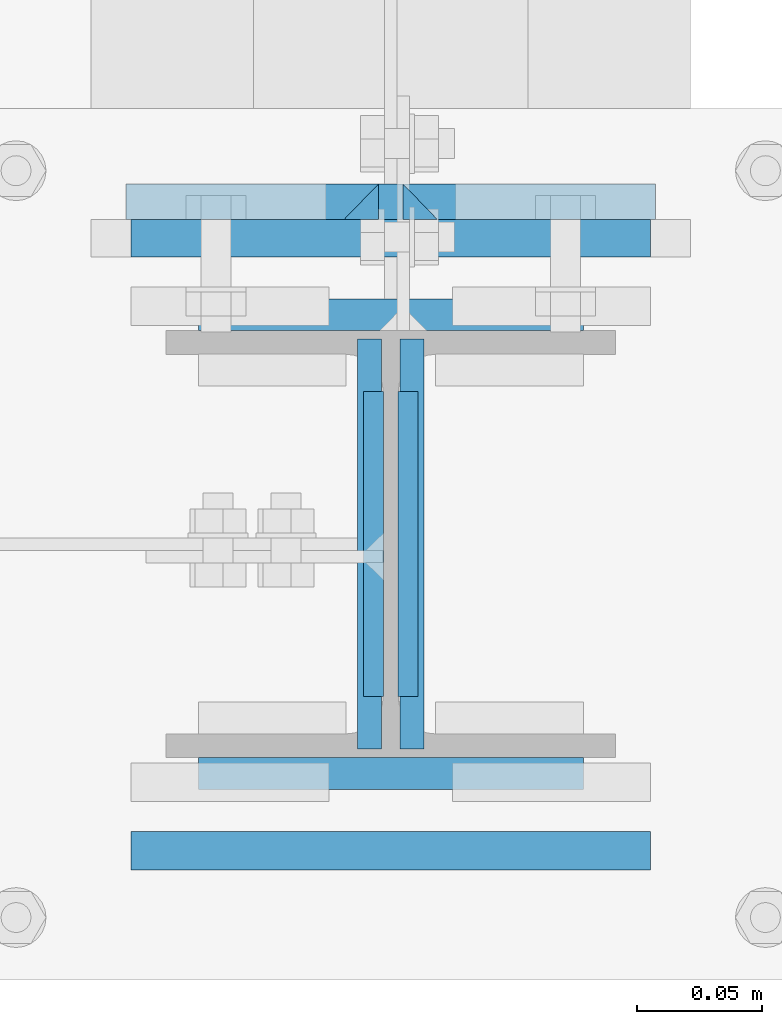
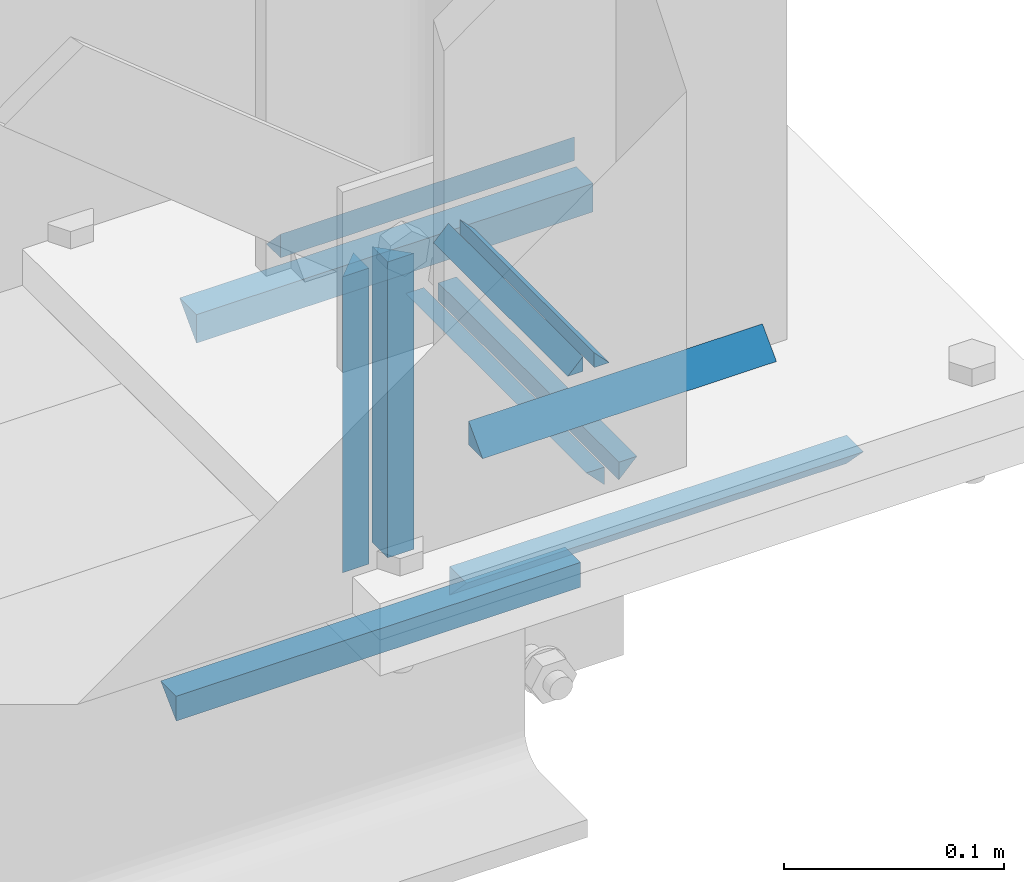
# One storey, part 22 of 66: 17 fasteners.
"""IFC4 building model written with IfcOpenShell, lengths in metres."""

from ifc_helpers import new_model, si_unit, frame, origin_with_axes, place, context, project, spatial, polyline, outline, extrude, type_object, element, save


model = new_model("IFC4")

# Units and contexts
model_context = context("Model", 3, precision=1e-05, world=origin_with_axes())
ifc_project = project(units=[si_unit("LENGTHUNIT", "METRE"), si_unit("AREAUNIT", "SQUARE_METRE"), si_unit("VOLUMEUNIT", "CUBIC_METRE"), si_unit("MASSUNIT", "GRAM", prefix="KILO"), si_unit("TIMEUNIT", "SECOND"), si_unit("PLANEANGLEUNIT", "RADIAN"), si_unit("SOLIDANGLEUNIT", "STERADIAN"), si_unit("THERMODYNAMICTEMPERATUREUNIT", "DEGREE_CELSIUS")], contexts=[model_context])

# Site, building, storey
placement_1 = place(None, origin_with_axes())
site = spatial("IfcSite", under=ifc_project, at=placement_1, Name="Italia", CompositionType="ELEMENT")
building = spatial("IfcBuilding", under=site, at=placement_1, Name="Uffici", CompositionType="ELEMENT")
storey_placement = place(None, frame((0.0, 0.0, 3.299999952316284), z_axis=(0.0, 0.0, 1.0), x_axis=(1.0, 0.0, 0.0)))
storey = spatial("IfcBuildingStorey", under=building, at=storey_placement, Name="Storey 1", CompositionType="ELEMENT", Elevation=3.299999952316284)

# Fasteners
fastener_type_1 = type_object("IfcFastenerType", Name="Collegamenti 0101_0201 0102_0202 0103_0203 0104_0204 0105_0205", PredefinedType="WELD")
placement_2 = place(placement_1, origin_with_axes())
fastener_1_placement = place(placement_2, origin_with_axes())
element("IfcFastener", 1, at=fastener_1_placement, inside=storey, type_object=fastener_type_1, Name="Collegamenti 0101_0201 0102_0202 0103_0203 0104_0204 0105_0205", context=model_context, shape_type="SweptSolid", body=[
    extrude(outline(polyline([(0.0, 0.0), (0.0127782, 0.0131733), (0.0127782, 0.0), (0.0, 0.0)])), frame((13.893, -0.0982282, 3.31995), z_axis=(1.0, 0.0, 0.0), x_axis=(0.0, 1.0, 0.0)), (0.0, 0.0, 1.0), 0.1541),
])
fastener_type_2 = type_object("IfcFastenerType", Name="Collegamenti 0101_0201 0102_0202 0103_0203 0104_0204 0105_0205", PredefinedType="WELD")
fastener_2_placement = place(placement_2, origin_with_axes())
element("IfcFastener", 2, at=fastener_2_placement, inside=storey, type_object=fastener_type_2, Name="Collegamenti 0101_0201 0102_0202 0103_0203 0104_0204 0105_0205", context=model_context, shape_type="SweptSolid", body=[
    extrude(outline(polyline([(0.0, 0.0), (0.00792885, 0.00817347), (0.00792885, 0.0), (0.0, 0.0)])), frame((13.9809, -0.06105, 3.31995), z_axis=(0.0, 1.0, 0.0), x_axis=(-1.0, 0.0, 0.0)), (0.0, 0.0, 1.0), 0.1221),
])
fastener_type_3 = type_object("IfcFastenerType", Name="Collegamenti 0101_0201 0102_0202 0103_0203 0104_0204 0105_0205", PredefinedType="WELD")
fastener_3_placement = place(placement_2, origin_with_axes())
element("IfcFastener", 3, at=fastener_3_placement, inside=storey, type_object=fastener_type_3, Name="Collegamenti 0101_0201 0102_0202 0103_0203 0104_0204 0105_0205", context=model_context, shape_type="SweptSolid", body=[
    extrude(outline(polyline([(0.0, 0.0), (0.00792885, 0.00817347), (0.00792885, 0.0), (0.0, 0.0)])), frame((13.9591, 0.06105, 3.31995), z_axis=(0.0, -1.0, 0.0), x_axis=(1.0, 0.0, 0.0)), (0.0, 0.0, 1.0), 0.1221),
])
fastener_type_4 = type_object("IfcFastenerType", Name="Collegamenti 0101_0201 0102_0202 0103_0203 0104_0204 0105_0205", PredefinedType="WELD")
fastener_4_placement = place(placement_2, origin_with_axes())
element("IfcFastener", 4, at=fastener_4_placement, inside=storey, type_object=fastener_type_4, Name="Collegamenti 0101_0201 0102_0202 0103_0203 0104_0204 0105_0205", context=model_context, shape_type="SweptSolid", body=[
    extrude(outline(polyline([(0.0, 0.0), (0.0127782, 0.0131733), (0.0127782, 0.0), (0.0, 0.0)])), frame((14.0471, 0.0982282, 3.31995), z_axis=(-1.0, 0.0, 0.0), x_axis=(0.0, -1.0, 0.0)), (0.0, 0.0, 1.0), 0.1541),
])
fastener_type_5 = type_object("IfcFastenerType", Name="Collegamenti 0101_0201 0102_0202 0103_0203 0104_0204 0105_0205", PredefinedType="WELD")
fastener_5_placement = place(placement_2, origin_with_axes())
element("IfcFastener", 5, at=fastener_5_placement, inside=storey, type_object=fastener_type_5, Name="Collegamenti 0101_0201 0102_0202 0103_0203 0104_0204 0105_0205", context=model_context, shape_type="SweptSolid", body=[
    extrude(outline(polyline([(0.0, 0.0), (0.0127782, 0.0131733), (0.0127782, 0.0), (0.0, 0.0)])), frame((13.893, -0.0982282, 3.31995), z_axis=(1.0, 0.0, 0.0), x_axis=(0.0, 1.0, 0.0)), (0.0, 0.0, 1.0), 0.1541),
])
fastener_type_6 = type_object("IfcFastenerType", Name="Collegamenti 0101_0201 0102_0202 0103_0203 0104_0204 0105_0205", PredefinedType="WELD")
fastener_6_placement = place(placement_2, origin_with_axes())
element("IfcFastener", 6, at=fastener_6_placement, inside=storey, type_object=fastener_type_6, Name="Collegamenti 0101_0201 0102_0202 0103_0203 0104_0204 0105_0205", context=model_context, shape_type="SweptSolid", body=[
    extrude(outline(polyline([(0.0, 0.0), (0.00792885, 0.00817347), (0.00792885, 0.0), (0.0, 0.0)])), frame((13.9809, -0.06105, 3.31995), z_axis=(0.0, 1.0, 0.0), x_axis=(-1.0, 0.0, 0.0)), (0.0, 0.0, 1.0), 0.1221),
])
fastener_type_7 = type_object("IfcFastenerType", Name="Collegamenti 0101_0201 0102_0202 0103_0203 0104_0204 0105_0205", PredefinedType="WELD")
fastener_7_placement = place(placement_2, origin_with_axes())
element("IfcFastener", 7, at=fastener_7_placement, inside=storey, type_object=fastener_type_7, Name="Collegamenti 0101_0201 0102_0202 0103_0203 0104_0204 0105_0205", context=model_context, shape_type="SweptSolid", body=[
    extrude(outline(polyline([(0.0, 0.0), (0.00792885, 0.00817347), (0.00792885, 0.0), (0.0, 0.0)])), frame((13.9591, 0.06105, 3.31995), z_axis=(0.0, -1.0, 0.0), x_axis=(1.0, 0.0, 0.0)), (0.0, 0.0, 1.0), 0.1221),
])
fastener_type_8 = type_object("IfcFastenerType", Name="Collegamenti 0101_0201 0102_0202 0103_0203 0104_0204 0105_0205", PredefinedType="WELD")
fastener_8_placement = place(placement_2, origin_with_axes())
element("IfcFastener", 8, at=fastener_8_placement, inside=storey, type_object=fastener_type_8, Name="Collegamenti 0101_0201 0102_0202 0103_0203 0104_0204 0105_0205", context=model_context, shape_type="SweptSolid", body=[
    extrude(outline(polyline([(0.0, 0.0), (0.0153519, -0.0158267), (0.0153519, 0.0), (0.0, 0.0)])), frame((14.0741, 0.130402, 3.27995), z_axis=(-1.0, 0.0, 0.0), x_axis=(0.0, -1.0, 0.0)), (0.0, 0.0, 1.0), 0.208099),
])
fastener_type_9 = type_object("IfcFastenerType", Name="Collegamenti 0101_0201 0102_0202 0103_0203 0104_0204 0105_0205", PredefinedType="WELD")
fastener_9_placement = place(placement_2, origin_with_axes())
element("IfcFastener", 9, at=fastener_9_placement, inside=storey, type_object=fastener_type_9, Name="Collegamenti 0101_0201 0102_0202 0103_0203 0104_0204 0105_0205", context=model_context, shape_type="SweptSolid", body=[
    extrude(outline(polyline([(0.0, 0.0), (0.0153519, -0.0158267), (0.0153519, 0.0), (0.0, 0.0)])), frame((13.866, -0.130402, 3.27995), z_axis=(1.0, 0.0, 0.0), x_axis=(0.0, 1.0, 0.0)), (0.0, 0.0, 1.0), 0.208099),
])
fastener_type_10 = type_object("IfcFastenerType", Name="Collegamenti 0101_0201 0102_0202 0103_0203 0104_0204 0105_0205", PredefinedType="WELD")
fastener_10_placement = place(placement_2, origin_with_axes())
element("IfcFastener", 10, at=fastener_10_placement, inside=storey, type_object=fastener_type_10, Name="Collegamenti 0101_0201 0102_0202 0103_0203 0104_0204 0105_0205", context=model_context, shape_type="SweptSolid", body=[
    extrude(outline(polyline([(0.0, 0.0), (0.00953102, -0.00982666), (0.00953102, 0.0), (0.0, 0.0)])), frame((13.9833, -0.08205, 3.27995), z_axis=(0.0, 1.0, 0.0), x_axis=(-1.0, 0.0, 0.0)), (0.0, 0.0, 1.0), 0.1641),
])
fastener_type_11 = type_object("IfcFastenerType", Name="Collegamenti 0101_0201 0102_0202 0103_0203 0104_0204 0105_0205", PredefinedType="WELD")
fastener_11_placement = place(placement_2, origin_with_axes())
element("IfcFastener", 11, at=fastener_11_placement, inside=storey, type_object=fastener_type_11, Name="Collegamenti 0101_0201 0102_0202 0103_0203 0104_0204 0105_0205", context=model_context, shape_type="SweptSolid", body=[
    extrude(outline(polyline([(0.0, 0.0), (0.00953102, -0.00982666), (0.00953102, 0.0), (0.0, 0.0)])), frame((13.9567, 0.08205, 3.27995), z_axis=(0.0, -1.0, 0.0), x_axis=(1.0, 0.0, 0.0)), (0.0, 0.0, 1.0), 0.1641),
])
fastener_type_12 = type_object("IfcFastenerType", Name="Collegamento 0105_-005", PredefinedType="WELD")
fastener_12_placement = place(placement_2, origin_with_axes())
element("IfcFastener", 12, at=fastener_12_placement, inside=storey, type_object=fastener_type_12, Name="Collegamento 0105_-005", context=model_context, shape_type="SweptSolid", body=[
    extrude(outline(polyline([(0.0, 0.0), (-0.0141733, 0.0137482), (0.0, 0.0137482), (0.0, 0.0)])), frame((14.0761, 0.12995, 3.0463), z_axis=(-1.0, 0.0, 0.0), x_axis=(0.0, -1.0, 0.0)), (0.0, 0.0, 1.0), 0.212099),
])
fastener_type_13 = type_object("IfcFastenerType", Name="Collegamento 0105_-005", PredefinedType="WELD")
fastener_13_placement = place(placement_2, origin_with_axes())
element("IfcFastener", 13, at=fastener_13_placement, inside=storey, type_object=fastener_type_13, Name="Collegamento 0105_-005", context=model_context, shape_type="SweptSolid", body=[
    extrude(outline(polyline([(0.0, 0.0), (0.0141734, -0.0137482), (0.0, -0.0137482), (0.0, 0.0)])), frame((13.9513, 0.12995, 3.09795), z_axis=(0.0, 0.0, 1.0), x_axis=(0.0, 1.0, 0.0)), (0.0, 0.0, 1.0), 0.1641),
])
fastener_type_14 = type_object("IfcFastenerType", Name="Collegamento 0105_-005", PredefinedType="WELD")
fastener_14_placement = place(placement_2, origin_with_axes())
element("IfcFastener", 14, at=fastener_14_placement, inside=storey, type_object=fastener_type_14, Name="Collegamento 0105_-005", context=model_context, shape_type="SweptSolid", body=[
    extrude(outline(polyline([(0.0, 0.0), (0.0141734, -0.0137482), (0.0, -0.0137482), (0.0, 0.0)])), frame((13.9887, 0.12995, 3.26205), z_axis=(0.0, 0.0, -1.0), x_axis=(0.0, 1.0, 0.0)), (0.0, 0.0, 1.0), 0.1641),
])
fastener_type_15 = type_object("IfcFastenerType", Name="Collegamento 0105_-005", PredefinedType="WELD")
fastener_15_placement = place(placement_2, origin_with_axes())
element("IfcFastener", 15, at=fastener_15_placement, inside=storey, type_object=fastener_type_15, Name="Collegamento 0105_-005", context=model_context, shape_type="SweptSolid", body=[
    extrude(outline(polyline([(0.0, 0.0), (-0.0141733, 0.0137482), (0.0, 0.0137482), (0.0, 0.0)])), frame((14.0761, 0.12995, 3.0463), z_axis=(-1.0, 0.0, 0.0), x_axis=(0.0, -1.0, 0.0)), (0.0, 0.0, 1.0), 0.212099),
])
fastener_type_16 = type_object("IfcFastenerType", Name="Collegamento 0105_-005", PredefinedType="WELD")
fastener_16_placement = place(placement_2, origin_with_axes())
element("IfcFastener", 16, at=fastener_16_placement, inside=storey, type_object=fastener_type_16, Name="Collegamento 0105_-005", context=model_context, shape_type="SweptSolid", body=[
    extrude(outline(polyline([(0.0, 0.0), (0.0141734, -0.0137482), (0.0, -0.0137482), (0.0, 0.0)])), frame((13.9513, 0.12995, 3.09795), z_axis=(0.0, 0.0, 1.0), x_axis=(0.0, 1.0, 0.0)), (0.0, 0.0, 1.0), 0.1641),
])
fastener_type_17 = type_object("IfcFastenerType", Name="Collegamento 0105_-005", PredefinedType="WELD")
fastener_17_placement = place(placement_2, origin_with_axes())
element("IfcFastener", 17, at=fastener_17_placement, inside=storey, type_object=fastener_type_17, Name="Collegamento 0105_-005", context=model_context, shape_type="SweptSolid", body=[
    extrude(outline(polyline([(0.0, 0.0), (0.0141734, -0.0137482), (0.0, -0.0137482), (0.0, 0.0)])), frame((13.9887, 0.12995, 3.26205), z_axis=(0.0, 0.0, -1.0), x_axis=(0.0, 1.0, 0.0)), (0.0, 0.0, 1.0), 0.1641),
])

save(model, "model.ifc")
